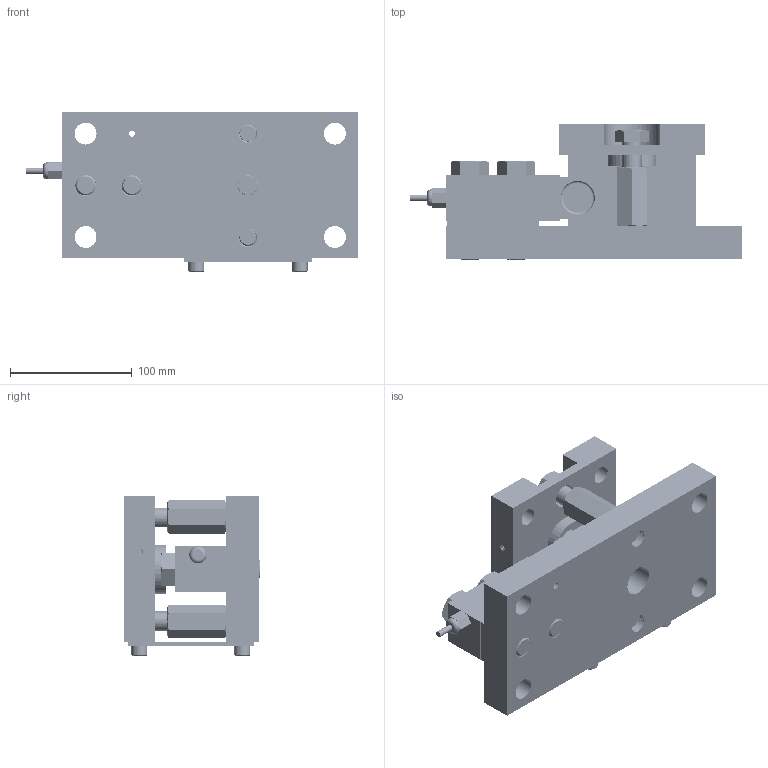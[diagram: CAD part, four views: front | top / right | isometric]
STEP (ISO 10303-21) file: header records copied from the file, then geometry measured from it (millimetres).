
FILE_DESCRIPTION(/* description */ (''),/* implementation_level */ '2;1');
FILE_NAME(/* name */ 'C:/Users/fardi/Dropbox/Work/Anyload/Load Cell Models/Product Catalog 3D/Weight Modules/563/563YHM4/563YHM4-(5-10)klb v17.step',/* time_stamp */ '2020-05-12T11:06:46-07:00',/* author */ (''),/* organization */ (''),/* preprocessor_version */ 'ST-DEVELOPER v18.1',/* originating_system */ 'Autodesk Translation Framework v9.3.0.1241',/* authorisation */ '');
FILE_SCHEMA (('AUTOMOTIVE_DESIGN { 1 0 10303 214 3 1 1 }'));
Products named in the file (13): 563YHM4-(5-10)klb; Base; 563YH-(2.5-5)t; Set Screw; Pin; Hat; Adapter; Top; Lock Plate; 91310A115; 95327A785; 93355A380; 96144A212
Assembly tree (18 placements, depth 2):
  563YHM4-(5-10)klb
    Base
    563YH-(2.5-5)t
    Set Screw
    Pin
    Hat
    Adapter
    Top
    Lock Plate
    91310A115  x2
    95327A785  x2
    93355A380  x2
    96144A212  x4
Bounding box: 273 x 111.5 x 131 mm (x, y, z)
Volume: 1402218.5 mm3; surface area: 266086.4 mm2
Topology: 18 solids, 18 shells, 1752 faces, 4744 edges, 3121 vertices
Faces by surface type: cylinder 695, plane 473, bspline 463, cone 114, torus 5, sphere 2
Full cylindrical faces by diameter (mm): 5.035 x19, 5.1 x1, 6.147 x8, 6.701 x40, 6.779 x16, 8 x48, 8.17 x12, 13 x4, 13.402 x80, 14 x1, 14.023 x24, 14.752 x28, 15 x4, 16 x84, 16.25 x26, 16.5 x1, 16.526 x34, 17.12 x8, 17.6 x1, 18 x32, 18.203 x34, 18.893 x9, 19.8 x2, 20 x4, 20.3 x2, 24 x1, 25 x1, 30 x2, 30.2 x2, 32 x1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
Entity records: 91898 total; most frequent: CARTESIAN_POINT 61937, ORIENTED_EDGE 7366, DIRECTION 4054, EDGE_CURVE 3683, VERTEX_POINT 2437, B_SPLINE_CURVE_WITH_KNOTS 1669, LINE 1664, VECTOR 1664
